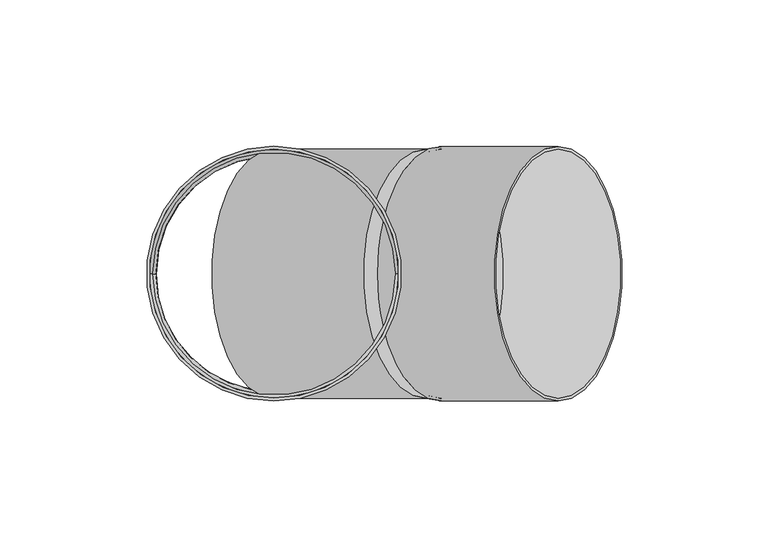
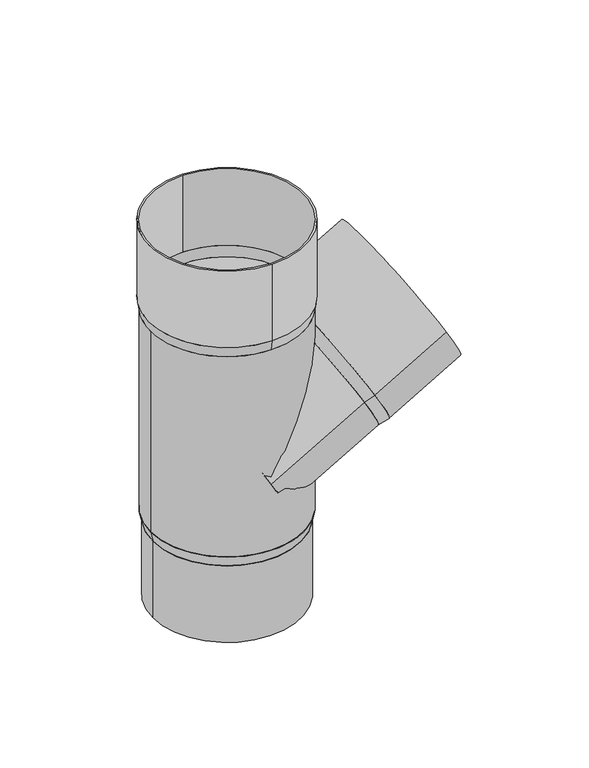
"""IFC4 building model written with IfcOpenShell, lengths in millimetres: proxy geometry, GROVIK_Downpipe_Branch : N85_60°."""

from ifc_helpers import new_model, si_unit, point, frame, origin, origin_2d, place, context, project, spatial, polyline, circle_curve, trimmed, segment, composite_curve, outline, extrude, source, transform, mapped, element, save
from ifc_brep_helpers import plane_surface, revolved_surface, advanced_brep


def generic_models_8d48bb92(model_context):
    return source(origin(), model_context, "Body", "SolidModel", [
        extrude(outline(composite_curve([segment(trimmed(circle_curve(origin_2d(), 43.5), [point((0.0, 43.5))], [point((0.0, -43.5))], False, "CARTESIAN"), True, "CONTINUOUS"), segment(trimmed(circle_curve(origin_2d(), 43.5), [point((0.0, -43.5))], [point((0.0, 43.5))], False, "CARTESIAN"), True, "CONTINUOUS")], self_intersect=False), holes=[composite_curve([segment(trimmed(circle_curve(origin_2d(), 42.5), [point((0.0, 42.5))], [point((0.0, -42.5))], True, "CARTESIAN"), True, "CONTINUOUS"), segment(trimmed(circle_curve(origin_2d(), 42.5), [point((0.0, -42.5))], [point((0.0, 42.5))], True, "CARTESIAN"), True, "CONTINUOUS")], self_intersect=False)]), frame((57.1576766, 0.0, 13.0), z_axis=(0.8660254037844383, 0.0, 0.5000000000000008), x_axis=(0.5000000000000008, 0.0, -0.8660254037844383)), (0.0, 0.0, 1.0), 46.0),
        advanced_brep(
        [(51.9615242, -42.5, 10.0), (51.9615242, 42.5, 10.0), (51.9615242, 41.4, 10.0), (51.9615242, -41.4, 10.0), (57.1576766, -43.5, 13.0), (57.1576766, 43.5, 13.0), (57.1576766, -42.5, 13.0), (57.1576766, 42.5, 13.0)],
        [
            (0, 1, circle_curve(frame((51.9615242, 0.0, 10.0), z_axis=(-0.8660254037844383, 0.0, -0.5000000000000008), x_axis=(0.0, -1.0, 0.0)), 42.5)),
            (1, 0, circle_curve(frame((51.9615242, 0.0, 10.0), z_axis=(-0.8660254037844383, 0.0, -0.5000000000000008), x_axis=(0.0, 1.0, 0.0)), 42.5)),
            (2, 3, circle_curve(frame((51.9615242, 0.0, 10.0), z_axis=(0.8660254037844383, 0.0, 0.5000000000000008), x_axis=(0.0, -1.0, 0.0)), 41.4)),
            (3, 2, circle_curve(frame((51.9615242, 0.0, 10.0), z_axis=(0.8660254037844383, 0.0, 0.5000000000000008), x_axis=(0.0, 1.0, 0.0)), 41.4)),
            (4, 5, circle_curve(frame((57.1576766, 0.0, 13.0), z_axis=(0.8660254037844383, 0.0, 0.5000000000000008), x_axis=(0.0, 1.0, 0.0)), 43.5)),
            (5, 4, circle_curve(frame((57.1576766, 0.0, 13.0), z_axis=(0.8660254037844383, 0.0, 0.5000000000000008), x_axis=(0.0, -1.0, 0.0)), 43.5)),
            (6, 7, circle_curve(frame((57.1576766, 0.0, 13.0), z_axis=(-0.8660254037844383, 0.0, -0.5000000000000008), x_axis=(0.0, -1.0, 0.0)), 42.5)),
            (7, 6, circle_curve(frame((57.1576766, 0.0, 13.0), z_axis=(-0.8660254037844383, 0.0, -0.5000000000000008), x_axis=(0.0, 1.0, 0.0)), 42.5)),
            (0, 4),
            (5, 1),
            (6, 3),
            (2, 7),
        ],
        [
            plane_surface(frame((51.9615242, 0.0, 10.0), z_axis=(-0.8660254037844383, 0.0, -0.5000000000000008), x_axis=(-0.5000000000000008, 0.0, 0.8660254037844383))),
            plane_surface(frame((57.1576766, 0.0, 13.0), z_axis=(0.8660254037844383, 0.0, 0.5000000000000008), x_axis=(-0.5000000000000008, 0.0, 0.8660254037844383))),
            revolved_surface(polyline([(51.96152419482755, -42.50000000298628, 10.00000000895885), (57.1576766, -43.5, 13.0)]), (-168.8749537, 0.0, -117.5), (0.8660254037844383, 0.0, 0.5000000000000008)),
            revolved_surface(polyline([(51.96152419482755, 42.50000000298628, 10.00000000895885), (57.1576766, 43.5, 13.0)]), (-168.8749537, 0.0, -117.5), (0.8660254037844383, 0.0, 0.5000000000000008)),
            revolved_surface(polyline([(57.1576766, -42.5, 13.0), (51.9615241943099, -41.40000000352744, 10.000000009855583)]), (-143.6027579, 0.0, -102.9090909), (0.8660254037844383, 0.0, 0.5000000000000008)),
        ],
        [
            (0, [[1, 2], [3, 4]]),
            (1, [[5, 6], [7, 8]]),
            (2, [[-1, 9, -6, 10]]),
            (3, [[-2, -10, -5, -9]]),
            (4, [[11, -3, 12, -7]]),
            (4, [[-11, -8, -12, -4]]),
        ],
    ),
        extrude(outline(composite_curve([segment(trimmed(circle_curve(origin_2d(), 42.5), [point((0.0, 42.5))], [point((0.0, -42.5))], False, "CARTESIAN"), True, "CONTINUOUS"), segment(trimmed(circle_curve(origin_2d(), 42.5), [point((0.0, -42.5))], [point((0.0, 42.5))], False, "CARTESIAN"), True, "CONTINUOUS")], self_intersect=False), holes=[composite_curve([segment(trimmed(circle_curve(origin_2d(), 41.4), [point((0.0, 41.4))], [point((0.0, -41.4))], True, "CARTESIAN"), True, "CONTINUOUS"), segment(trimmed(circle_curve(origin_2d(), 41.4), [point((0.0, -41.4))], [point((0.0, 41.4))], True, "CARTESIAN"), True, "CONTINUOUS")], self_intersect=False)]), frame((0.0, 0.0, -20.0), z_axis=(0.8660254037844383, 0.0, 0.5000000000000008), x_axis=(0.5000000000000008, 0.0, -0.8660254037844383)), (0.0, 0.0, 1.0), 60.0),
        extrude(outline(composite_curve([segment(trimmed(circle_curve(origin_2d(), 43.5), [point((0.0, 43.5))], [point((0.0, -43.5))], False, "CARTESIAN"), True, "CONTINUOUS"), segment(trimmed(circle_curve(origin_2d(), 43.5), [point((0.0, -43.5))], [point((0.0, 43.5))], False, "CARTESIAN"), True, "CONTINUOUS")], self_intersect=False), holes=[composite_curve([segment(trimmed(circle_curve(origin_2d(), 42.5), [point((0.0, 42.5))], [point((0.0, -42.5))], True, "CARTESIAN"), True, "CONTINUOUS"), segment(trimmed(circle_curve(origin_2d(), 42.5), [point((0.0, -42.5))], [point((0.0, 42.5))], True, "CARTESIAN"), True, "CONTINUOUS")], self_intersect=False)]), frame((0.0, 0.0, 65.0), z_axis=(0.0, 0.0, 1.0), x_axis=(1.0, 0.0, 0.0)), (0.0, 0.0, 1.0), 45.0),
        extrude(outline(composite_curve([segment(trimmed(circle_curve(origin_2d(), 41.25), [point((41.25, 0.0))], [point((-41.25, 0.0))], False, "CARTESIAN"), True, "CONTINUOUS"), segment(trimmed(circle_curve(origin_2d(), 41.25), [point((-41.25, 0.0))], [point((41.25, 0.0))], False, "CARTESIAN"), True, "CONTINUOUS")], self_intersect=False), holes=[composite_curve([segment(trimmed(circle_curve(origin_2d(), 40.25), [point((40.25, 0.0))], [point((-40.25, 0.0))], True, "CARTESIAN"), True, "CONTINUOUS"), segment(trimmed(circle_curve(origin_2d(), 40.25), [point((-40.25, 0.0))], [point((40.25, 0.0))], True, "CARTESIAN"), True, "CONTINUOUS")], self_intersect=False)]), frame((0.0, 0.0, -110.0), z_axis=(0.0, 0.0, 1.0), x_axis=(1.0, 0.0, 0.0)), (0.0, 0.0, 1.0), 45.0),
        advanced_brep(
        [(42.5, 0.0, -59.0), (-42.5, 0.0, -59.0), (-41.5, 0.0, -59.0), (41.5, 0.0, -59.0), (41.25, 0.0, -65.0), (-41.25, 0.0, -65.0), (40.25, 0.0, -65.0), (-40.25, 0.0, -65.0)],
        [
            (0, 1, circle_curve(frame((0.0, 0.0, -59.0), z_axis=(0.0, 0.0, 1.0), x_axis=(1.0, 0.0, 0.0)), 42.5)),
            (1, 0, circle_curve(frame((0.0, 0.0, -59.0), z_axis=(0.0, 0.0, 1.0), x_axis=(-1.0, 0.0, 0.0)), 42.5)),
            (2, 3, circle_curve(frame((0.0, 0.0, -59.0), z_axis=(0.0, 0.0, -1.0), x_axis=(1.0, 0.0, 0.0)), 41.5)),
            (3, 2, circle_curve(frame((0.0, 0.0, -59.0), z_axis=(0.0, 0.0, -1.0), x_axis=(-1.0, 0.0, 0.0)), 41.5)),
            (4, 5, circle_curve(frame((0.0, 0.0, -65.0), z_axis=(0.0, 0.0, -1.0), x_axis=(-1.0, 0.0, 0.0)), 41.25)),
            (5, 4, circle_curve(frame((0.0, 0.0, -65.0), z_axis=(0.0, 0.0, -1.0), x_axis=(1.0, 0.0, 0.0)), 41.25)),
            (6, 7, circle_curve(frame((0.0, 0.0, -65.0), z_axis=(0.0, 0.0, 1.0), x_axis=(1.0, 0.0, 0.0)), 40.25)),
            (7, 6, circle_curve(frame((0.0, 0.0, -65.0), z_axis=(0.0, 0.0, 1.0), x_axis=(-1.0, 0.0, 0.0)), 40.25)),
            (0, 4),
            (5, 1),
            (6, 3),
            (2, 7),
        ],
        [
            plane_surface(frame((0.0, 0.0, -59.0), z_axis=(0.0, 0.0, 1.0), x_axis=(0.0, 1.0, 0.0))),
            plane_surface(frame((0.0, 0.0, -65.0), z_axis=(0.0, 0.0, -1.0), x_axis=(0.0, 1.0, 0.0))),
            revolved_surface(polyline([(-41.25, 0.0, -65.0), (-42.5, 0.0, -59.0)]), (0.0, 0.0, -263.0), (0.0, 0.0, 1.0)),
            revolved_surface(polyline([(41.25, 0.0, -65.0), (42.5, 0.0, -59.0)]), (0.0, 0.0, -263.0), (0.0, 0.0, 1.0)),
            revolved_surface(polyline([(41.5, 0.0, -59.0), (40.25, 0.0, -65.0)]), (0.0, 0.0, -258.2), (0.0, 0.0, 1.0)),
        ],
        [
            (0, [[1, 2], [3, 4]]),
            (1, [[5, 6], [7, 8]]),
            (2, [[-1, 9, -6, 10]]),
            (3, [[-2, -10, -5, -9]]),
            (4, [[11, -3, 12, -7]]),
            (4, [[-11, -8, -12, -4]]),
        ],
    ),
        advanced_brep(
        [(0.0, 43.5, 65.0), (0.0, -43.5, 65.0), (-42.5, 0.0, 65.0), (42.5, 0.0, 65.0), (0.0, 42.5, 59.0), (0.0, -42.5, 59.0), (41.5, 0.0, 59.0), (-41.5, 0.0, 59.0)],
        [
            (0, 1, circle_curve(frame((0.0, 0.0, 65.0), z_axis=(0.0, 0.0, 1.0), x_axis=(0.0, 1.0, 0.0)), 43.5)),
            (1, 0, circle_curve(frame((0.0, 0.0, 65.0), z_axis=(0.0, 0.0, 1.0), x_axis=(0.0, -1.0, 0.0)), 43.5)),
            (2, 3, circle_curve(frame((0.0, 0.0, 65.0), z_axis=(0.0, 0.0, -1.0), x_axis=(-1.0, 0.0, 0.0)), 42.5)),
            (3, 2, circle_curve(frame((0.0, 0.0, 65.0), z_axis=(0.0, 0.0, -1.0), x_axis=(1.0, 0.0, 0.0)), 42.5)),
            (4, 5, circle_curve(frame((0.0, 0.0, 59.0), z_axis=(0.0, 0.0, -1.0), x_axis=(0.0, -1.0, 0.0)), 42.5)),
            (5, 4, circle_curve(frame((0.0, 0.0, 59.0), z_axis=(0.0, 0.0, -1.0), x_axis=(0.0, 1.0, 0.0)), 42.5)),
            (6, 7, circle_curve(frame((0.0, 0.0, 59.0), z_axis=(0.0, 0.0, 1.0), x_axis=(-1.0, 0.0, 0.0)), 41.5)),
            (7, 6, circle_curve(frame((0.0, 0.0, 59.0), z_axis=(0.0, 0.0, 1.0), x_axis=(1.0, 0.0, 0.0)), 41.5)),
            (0, 4),
            (5, 1),
            (2, 7),
            (6, 3),
        ],
        [
            plane_surface(frame((0.0, 0.0, 65.0), z_axis=(0.0, 0.0, 1.0), x_axis=(-1.0, 0.0, 0.0))),
            plane_surface(frame((0.0, 0.0, 59.0), z_axis=(0.0, 0.0, -1.0), x_axis=(-1.0, 0.0, 0.0))),
            revolved_surface(polyline([(0.0, -42.5, 59.0), (0.0, -43.5, 65.0)]), (0.0, 0.0, -196.0), (0.0, 0.0, 1.0)),
            revolved_surface(polyline([(0.0, 42.5, 59.0), (0.0, 43.5, 65.0)]), (0.0, 0.0, -196.0), (0.0, 0.0, 1.0)),
            revolved_surface(polyline([(-42.5, 0.0, 65.0), (-41.5, 0.0, 59.0)]), (0.0, 0.0, -190.0), (0.0, 0.0, 1.0)),
        ],
        [
            (0, [[1, 2], [3, 4]]),
            (1, [[5, 6], [7, 8]]),
            (2, [[-1, 9, -6, 10]]),
            (3, [[-2, -10, -5, -9]]),
            (4, [[11, -7, 12, -3]]),
            (4, [[-11, -4, -12, -8]]),
        ],
    ),
        extrude(outline(composite_curve([segment(trimmed(circle_curve(origin_2d(), 42.5), [point((-42.5, 0.0))], [point((42.5, 0.0))], False, "CARTESIAN"), True, "CONTINUOUS"), segment(trimmed(circle_curve(origin_2d(), 42.5), [point((42.5, 0.0))], [point((-42.5, 0.0))], False, "CARTESIAN"), True, "CONTINUOUS")], self_intersect=False), holes=[composite_curve([segment(trimmed(circle_curve(origin_2d(), 41.5), [point((-41.5, 0.0))], [point((41.5, 0.0))], True, "CARTESIAN"), True, "CONTINUOUS"), segment(trimmed(circle_curve(origin_2d(), 41.5), [point((41.5, 0.0))], [point((-41.5, 0.0))], True, "CARTESIAN"), True, "CONTINUOUS")], self_intersect=False)]), frame((0.0, 0.0, -59.0), z_axis=(0.0, 0.0, 1.0), x_axis=(1.0, 0.0, 0.0)), (0.0, 0.0, 1.0), 118.0),
    ])


if __name__ == "__main__":
    model = new_model("IFC4")
    model_context = context("Model", 3, world=origin())
    ifc_project = project(units=[si_unit("LENGTHUNIT", "METRE", prefix="MILLI")], contexts=[model_context])
    site = spatial("IfcSite", under=ifc_project)
    building = spatial("IfcBuilding", under=site)
    placement = place(None, origin())
    generic_models_shape = generic_models_8d48bb92(model_context)
    element("IfcBuildingElementProxy", 1, Name="GROVIK_Downpipe_Branch : N85_60°", ObjectType="GROVIK_Downpipe_Branch : N85_60°", at=placement, inside=building, context=model_context, shape_type="MappedRepresentation", body=[
        mapped(generic_models_shape, transform((0.0, 0.0, 0.0), x_axis=(1.0, 0.0, 0.0), y_axis=(0.0, 1.0, 0.0), z_axis=(0.0, 0.0, 1.0))),
    ])
    save(model, "model.ifc")
